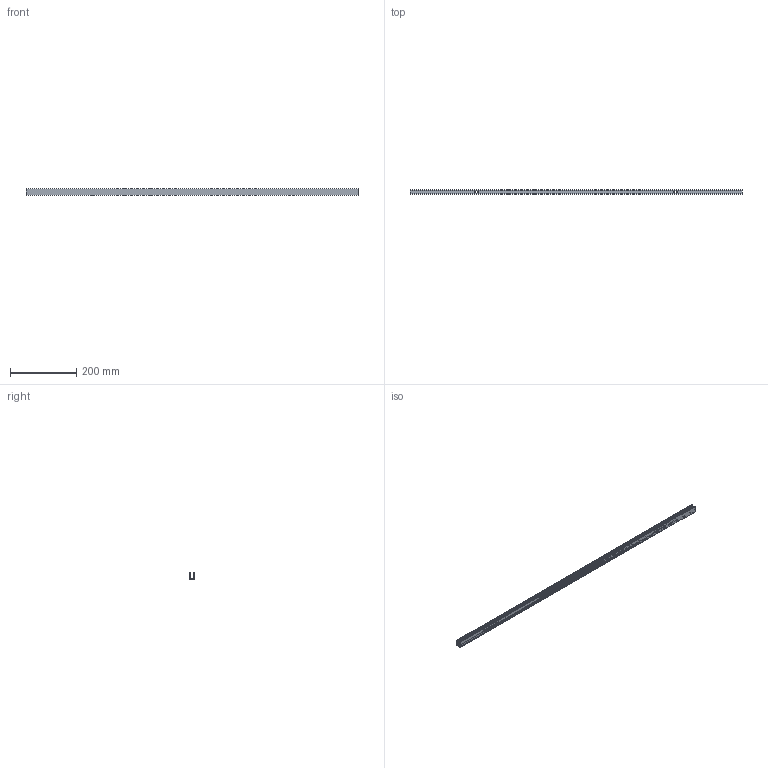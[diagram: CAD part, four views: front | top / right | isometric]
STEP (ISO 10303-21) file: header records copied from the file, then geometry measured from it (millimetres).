
FILE_DESCRIPTION(/* description */ (''),/* implementation_level */ '2;1');
FILE_NAME(/* name */ 'NF_0816_STRAIGHT_PROFILE_L1000_R01.step',/* time_stamp */ '2026-07-16T12:44:28+02:00',/* author */ (''),/* organization */ (''),/* preprocessor_version */ 'ST-DEVELOPER v20.1',/* originating_system */ 'Autodesk Translation Framework v15.8.0.0',/* authorisation */ '');
FILE_SCHEMA (('AUTOMOTIVE_DESIGN { 1 0 10303 214 3 1 1 }'));
Length unit declared in the file: millimetre
Products named in the file (1): 2026-07-16-12-27-09-309
Bounding box: 1000 x 14.19 x 20.4 mm (x, y, z)
Volume: 109539.5 mm3; surface area: 205313.4 mm2
Topology: 3 solids, 3 shells, 163 faces, 471 edges, 314 vertices
Faces by surface type: plane 76, bspline 63, cylinder 24
Entity records: 6481 total; most frequent: CARTESIAN_POINT 2484, ORIENTED_EDGE 942, DIRECTION 639, EDGE_CURVE 471, VERTEX_POINT 314, LINE 297, VECTOR 297, AXIS2_PLACEMENT_3D 171
